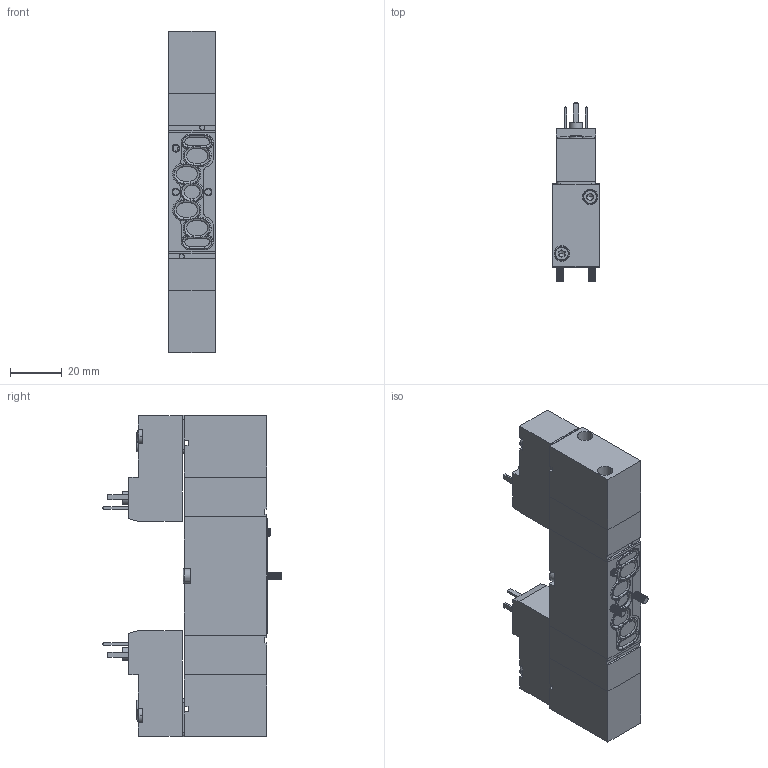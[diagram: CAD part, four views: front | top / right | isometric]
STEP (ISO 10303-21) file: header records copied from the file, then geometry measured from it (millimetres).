
FILE_DESCRIPTION (( 'STEP AP214' ), '1' );
FILE_NAME ('05_132_4.STEP', '2016-02-26T13:47:48', ( '' ), ( '' ), 'SwSTEP 2.0', 'SolidWorks 2016', '' );
FILE_SCHEMA (( 'AUTOMOTIVE_DESIGN' ));
Length unit declared in the file: millimetre
Products named in the file (1): 05_132_4
Bounding box: 18 x 69.2 x 124.8 mm (x, y, z)
Volume: 96099.1 mm3; surface area: 33836.9 mm2
Topology: 29 solids, 29 shells, 2218 faces, 5294 edges, 3126 vertices
Faces by surface type: cone 970, cylinder 664, plane 442, bspline 142
Entity records: 85759 total; most frequent: CARTESIAN_POINT 15451, DIRECTION 11734, ORIENTED_EDGE 10500, EDGE_CURVE 5250, AXIS2_PLACEMENT_3D 4661, VERTEX_POINT 3126, CIRCLE 2584, VECTOR 2412
